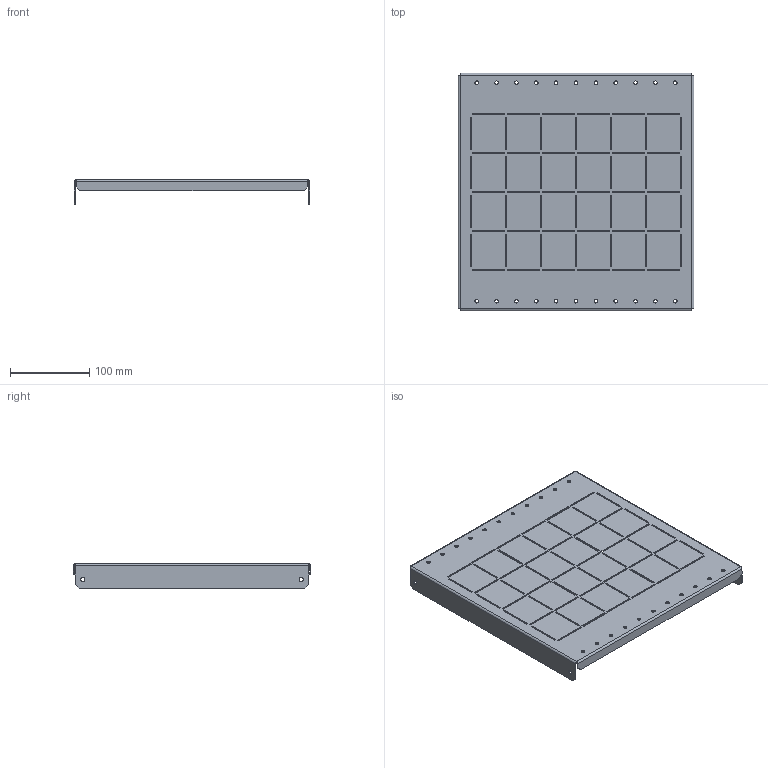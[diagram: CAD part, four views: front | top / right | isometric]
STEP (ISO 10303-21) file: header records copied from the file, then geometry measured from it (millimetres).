
FILE_DESCRIPTION (( 'STEP AP203' ), '1' );
FILE_NAME ('MA1.800.060403.04.01 Ïàíåëè áîêîâûå äëÿ ñåêöèîíèðîâàíèÿ Â300 Ã400 ìì.STEP', '2024-12-02T13:57:39', ( '' ), ( '' ), 'SwSTEP 2.0', 'SolidWorks 2021', '' );
FILE_SCHEMA (( 'CONFIG_CONTROL_DESIGN' ));
Length unit declared in the file: millimetre
Products named in the file (1): MA1.800.060403.04.01 Ïàíåëè áîêîâûå äëÿ ñåêöèîíèðîâàíèÿ Â300 Ã400 ìì
Bounding box: 297 x 299 x 31 mm (x, y, z)
Volume: 160864.2 mm3; surface area: 224533.6 mm2
Topology: 1 solids, 1 shells, 304 faces, 874 edges, 572 vertices
Faces by surface type: plane 270, cylinder 34
Full cylindrical faces by diameter (mm): 4.5 x22, 5.5 x4
Entity records: 10053 total; most frequent: CARTESIAN_POINT 1725, ORIENTED_EDGE 1696, DIRECTION 1526, EDGE_CURVE 848, LINE 780, VECTOR 780, VERTEX_POINT 572, EDGE_LOOP 498
